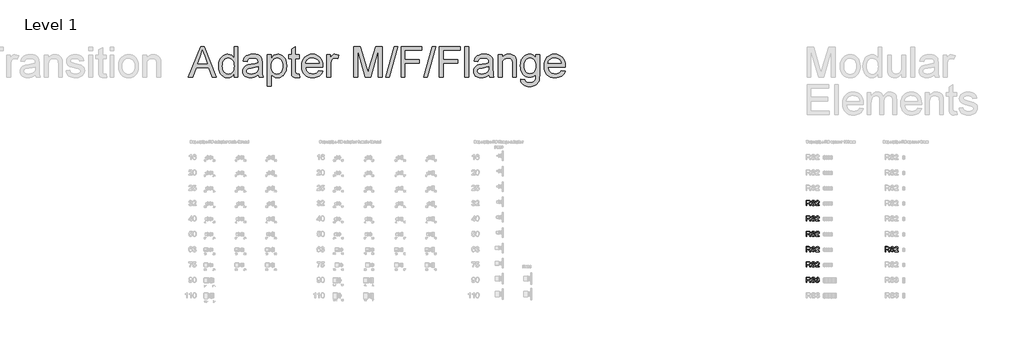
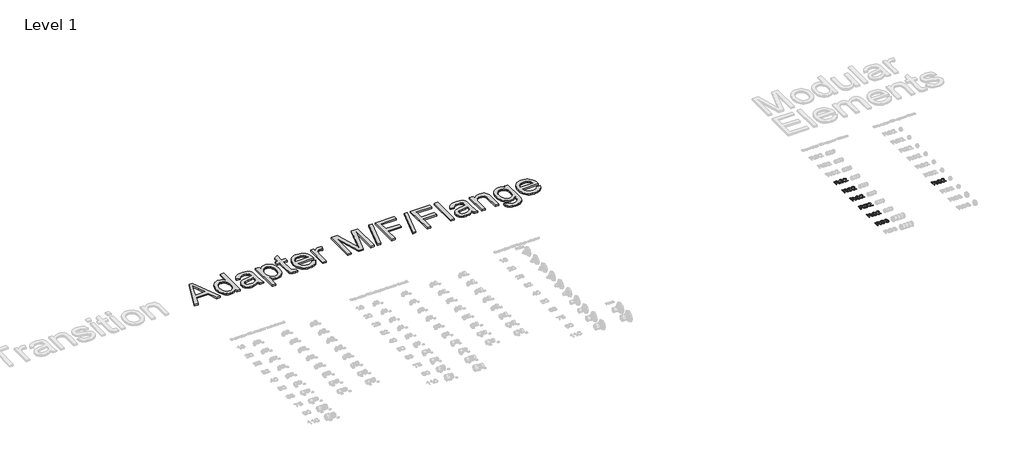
# One storey, part 50 of 58: 8 proxies.
"""IFC4 building model written with IfcOpenShell, lengths in millimetres."""

from ifc_helpers import new_model, si_unit, frame, origin, place, context, project, spatial, polyline, outline, extrude, element, save

model = new_model("IFC4")

# Units and contexts
model_context = context("Model", 3, world=origin())
ifc_project = project(units=[si_unit("LENGTHUNIT", "METRE", prefix="MILLI")], contexts=[model_context])

# Site, building, storey
site = spatial("IfcSite", under=ifc_project)
building = spatial("IfcBuilding", under=site)
storey = spatial("IfcBuildingStorey", under=building, Name="Level 1", Elevation=27.3876384)

# Proxies
placement = place(None, origin())
element("IfcBuildingElementProxy", 1, Name="100mm Arial", ObjectType="100mm Arial", at=placement, inside=storey, context=model_context, shape_type="SweptSolid", body=[
    extrude(outline(polyline([(40829.1903668, 17706.196048), (40829.1903668, 17806.6523581), (40872.4778149, 17806.6523581), (40892.5764346, 17803.9422941), (40903.5638435, 17794.3528367), (40907.6718591, 17779.1593103), (40905.9704049, 17769.2632847), (40900.8660422, 17761.0595162), (40892.2054869, 17755.0446456), (40879.8354548, 17751.7153135), (40886.9723656, 17746.3442364), (40897.1504341, 17733.4193156), (40913.9013276, 17706.196048), (40899.3086751, 17706.196048), (40886.2366016, 17727.0181689), (40876.794297, 17740.801481), (40870.1601584, 17747.3129923), (40864.1882073, 17749.7042253), (40856.9041438, 17750.1456837), (40841.7474056, 17750.1456837), (40841.7474056, 17706.196048), (40829.1903668, 17706.196048)]), holes=[polyline([(40841.7474056, 17762.7027224), (40869.85359, 17762.7027224), (40884.1887251, 17764.4808187), (40892.3311799, 17770.1707269), (40895.1148204, 17778.6933265), (40889.8050569, 17789.7543118), (40873.0173752, 17794.0953193), (40841.7474056, 17794.0953193), (40841.7474056, 17762.7027224)])]), frame((0.0, 0.0, 27.3876384), z_axis=(0.0, 0.0, 1.0), x_axis=(1.0, 0.0, 0.0)), (0.0, 0.0, 1.0), 2.0),
    extrude(outline(polyline([(40924.9377875, 17740.7279046), (40937.4948262, 17740.7279046), (40941.5415282, 17728.1586031), (40951.4252911, 17720.212352), (40966.4839274, 17717.1834569), (40979.6050519, 17719.476588), (40988.0786006, 17725.7796328), (40990.862241, 17734.2041305), (40988.7775763, 17742.040017), (40980.2427141, 17747.742188), (40961.9589789, 17752.5369166), (40942.2772922, 17758.7295969), (40931.5964516, 17768.0737996), (40928.0770471, 17780.5572619), (40932.4303174, 17794.7697697), (40945.1467717, 17804.8006854), (40963.7616007, 17808.221988), (40983.6272284, 17804.6412699), (40996.8709802, 17794.1198448), (41001.8496499, 17778.3990209), (40989.2926111, 17778.3990209), (40986.9872173, 17785.8915509), (40982.1802259, 17791.2994162), (40964.25211, 17795.6649492), (40946.2749432, 17791.3484671), (40940.6340859, 17780.9251439), (40944.6317369, 17772.2186034), (40965.1350268, 17765.20432), (40987.3550993, 17758.9012751), (40999.5074679, 17748.7232066), (41003.4192798, 17734.5229616), (40998.9188567, 17719.5011135), (40985.9694105, 17708.53823), (40966.9744368, 17704.6264181), (40944.5458978, 17708.8447983), (40930.3579155, 17721.5489899), (40924.9377875, 17740.7279046)])), frame((0.0, 0.0, 27.3876384), z_axis=(0.0, 0.0, 1.0), x_axis=(1.0, 0.0, 0.0)), (0.0, 0.0, 1.0), 2.0),
    extrude(outline(polyline([(41081.9007721, 17718.7530867), (41081.9007721, 17706.196048), (41015.9763185, 17706.196048), (41017.3252192, 17714.8535376), (41024.9526392, 17728.1831285), (41040.6734631, 17742.7389928), (41062.3539754, 17763.6592156), (41067.7741034, 17777.8839861), (41062.6605437, 17789.3986925), (41049.3064273, 17794.0953193), (41035.3882251, 17789.5090571), (41030.1029871, 17776.829391), (41017.5459484, 17778.3990209), (41020.5901719, 17790.5452581), (41027.1721939, 17799.4173455), (41036.9486579, 17804.843605), (41049.5762074, 17806.6523581), (41062.2957274, 17804.6412699), (41072.0537973, 17798.6080052), (41078.261806, 17789.5948963), (41080.3311422, 17778.6442756), (41078.0993248, 17766.7371616), (41070.6803712, 17754.4253775), (41052.6909416, 17737.2207629), (41038.245442, 17725.1419707), (41032.5800592, 17718.7530867), (41081.9007721, 17718.7530867)])), frame((0.0, 0.0, 27.3876384), z_axis=(0.0, 0.0, 1.0), x_axis=(1.0, 0.0, 0.0)), (0.0, 0.0, 1.0), 2.0),
])
element("IfcBuildingElementProxy", 2, Name="100mm Arial", ObjectType="100mm Arial", at=placement, inside=storey, context=model_context, shape_type="SweptSolid", body=[
    extrude(outline(polyline([(40829.1903668, 17406.196048), (40829.1903668, 17506.6523581), (40872.4778149, 17506.6523581), (40892.5764346, 17503.9422941), (40903.5638435, 17494.3528367), (40907.6718591, 17479.1593103), (40905.9704049, 17469.2632847), (40900.8660422, 17461.0595162), (40892.2054869, 17455.0446456), (40879.8354548, 17451.7153135), (40886.9723656, 17446.3442364), (40897.1504341, 17433.4193156), (40913.9013276, 17406.196048), (40899.3086751, 17406.196048), (40886.2366016, 17427.0181689), (40876.794297, 17440.801481), (40870.1601584, 17447.3129923), (40864.1882073, 17449.7042253), (40856.9041438, 17450.1456837), (40841.7474056, 17450.1456837), (40841.7474056, 17406.196048), (40829.1903668, 17406.196048)]), holes=[polyline([(40841.7474056, 17462.7027224), (40869.85359, 17462.7027224), (40884.1887251, 17464.4808187), (40892.3311799, 17470.1707269), (40895.1148204, 17478.6933265), (40889.8050569, 17489.7543118), (40873.0173752, 17494.0953193), (40841.7474056, 17494.0953193), (40841.7474056, 17462.7027224)])]), frame((0.0, 0.0, 27.3876384), z_axis=(0.0, 0.0, 1.0), x_axis=(1.0, 0.0, 0.0)), (0.0, 0.0, 1.0), 2.0),
    extrude(outline(polyline([(40924.9377875, 17440.7279046), (40937.4948262, 17440.7279046), (40941.5415282, 17428.1586031), (40951.4252911, 17420.212352), (40966.4839274, 17417.1834569), (40979.6050519, 17419.476588), (40988.0786006, 17425.7796328), (40990.862241, 17434.2041305), (40988.7775763, 17442.040017), (40980.2427141, 17447.742188), (40961.9589789, 17452.5369166), (40942.2772922, 17458.7295969), (40931.5964516, 17468.0737996), (40928.0770471, 17480.5572619), (40932.4303174, 17494.7697697), (40945.1467717, 17504.8006854), (40963.7616007, 17508.221988), (40983.6272284, 17504.6412699), (40996.8709802, 17494.1198448), (41001.8496499, 17478.3990209), (40989.2926111, 17478.3990209), (40986.9872173, 17485.8915509), (40982.1802259, 17491.2994162), (40964.25211, 17495.6649492), (40946.2749432, 17491.3484671), (40940.6340859, 17480.9251439), (40944.6317369, 17472.2186034), (40965.1350268, 17465.20432), (40987.3550993, 17458.9012751), (40999.5074679, 17448.7232066), (41003.4192798, 17434.5229616), (40998.9188567, 17419.5011135), (40985.9694105, 17408.53823), (40966.9744368, 17404.6264181), (40944.5458978, 17408.8447983), (40930.3579155, 17421.5489899), (40924.9377875, 17440.7279046)])), frame((0.0, 0.0, 27.3876384), z_axis=(0.0, 0.0, 1.0), x_axis=(1.0, 0.0, 0.0)), (0.0, 0.0, 1.0), 2.0),
    extrude(outline(polyline([(41081.9007721, 17418.7530867), (41081.9007721, 17406.196048), (41015.9763185, 17406.196048), (41017.3252192, 17414.8535376), (41024.9526392, 17428.1831285), (41040.6734631, 17442.7389928), (41062.3539754, 17463.6592156), (41067.7741034, 17477.8839861), (41062.6605437, 17489.3986925), (41049.3064273, 17494.0953193), (41035.3882251, 17489.5090571), (41030.1029871, 17476.829391), (41017.5459484, 17478.3990209), (41020.5901719, 17490.5452581), (41027.1721939, 17499.4173455), (41036.9486579, 17504.843605), (41049.5762074, 17506.6523581), (41062.2957274, 17504.6412699), (41072.0537973, 17498.6080052), (41078.261806, 17489.5948963), (41080.3311422, 17478.6442756), (41078.0993248, 17466.7371616), (41070.6803712, 17454.4253775), (41052.6909416, 17437.2207629), (41038.245442, 17425.1419707), (41032.5800592, 17418.7530867), (41081.9007721, 17418.7530867)])), frame((0.0, 0.0, 27.3876384), z_axis=(0.0, 0.0, 1.0), x_axis=(1.0, 0.0, 0.0)), (0.0, 0.0, 1.0), 2.0),
])
element("IfcBuildingElementProxy", 3, Name="100mm Arial", ObjectType="100mm Arial", at=placement, inside=storey, context=model_context, shape_type="SweptSolid", body=[
    extrude(outline(polyline([(40829.1903668, 17106.196048), (40829.1903668, 17206.6523581), (40872.4778149, 17206.6523581), (40892.5764346, 17203.9422941), (40903.5638435, 17194.3528367), (40907.6718591, 17179.1593103), (40905.9704049, 17169.2632847), (40900.8660422, 17161.0595162), (40892.2054869, 17155.0446456), (40879.8354548, 17151.7153135), (40886.9723656, 17146.3442364), (40897.1504341, 17133.4193156), (40913.9013276, 17106.196048), (40899.3086751, 17106.196048), (40886.2366016, 17127.0181689), (40876.794297, 17140.801481), (40870.1601584, 17147.3129923), (40864.1882073, 17149.7042253), (40856.9041438, 17150.1456837), (40841.7474056, 17150.1456837), (40841.7474056, 17106.196048), (40829.1903668, 17106.196048)]), holes=[polyline([(40841.7474056, 17162.7027224), (40869.85359, 17162.7027224), (40884.1887251, 17164.4808187), (40892.3311799, 17170.1707269), (40895.1148204, 17178.6933265), (40889.8050569, 17189.7543118), (40873.0173752, 17194.0953193), (40841.7474056, 17194.0953193), (40841.7474056, 17162.7027224)])]), frame((0.0, 0.0, 27.3876384), z_axis=(0.0, 0.0, 1.0), x_axis=(1.0, 0.0, 0.0)), (0.0, 0.0, 1.0), 2.0),
    extrude(outline(polyline([(40924.9377875, 17140.7279046), (40937.4948262, 17140.7279046), (40941.5415282, 17128.1586031), (40951.4252911, 17120.212352), (40966.4839274, 17117.1834569), (40979.6050519, 17119.476588), (40988.0786006, 17125.7796328), (40990.862241, 17134.2041305), (40988.7775763, 17142.040017), (40980.2427141, 17147.742188), (40961.9589789, 17152.5369166), (40942.2772922, 17158.7295969), (40931.5964516, 17168.0737996), (40928.0770471, 17180.5572619), (40932.4303174, 17194.7697697), (40945.1467717, 17204.8006854), (40963.7616007, 17208.221988), (40983.6272284, 17204.6412699), (40996.8709802, 17194.1198448), (41001.8496499, 17178.3990209), (40989.2926111, 17178.3990209), (40986.9872173, 17185.8915509), (40982.1802259, 17191.2994162), (40964.25211, 17195.6649492), (40946.2749432, 17191.3484671), (40940.6340859, 17180.9251439), (40944.6317369, 17172.2186034), (40965.1350268, 17165.20432), (40987.3550993, 17158.9012751), (40999.5074679, 17148.7232066), (41003.4192798, 17134.5229616), (40998.9188567, 17119.5011135), (40985.9694105, 17108.53823), (40966.9744368, 17104.6264181), (40944.5458978, 17108.8447983), (40930.3579155, 17121.5489899), (40924.9377875, 17140.7279046)])), frame((0.0, 0.0, 27.3876384), z_axis=(0.0, 0.0, 1.0), x_axis=(1.0, 0.0, 0.0)), (0.0, 0.0, 1.0), 2.0),
    extrude(outline(polyline([(41081.9007721, 17118.7530867), (41081.9007721, 17106.196048), (41015.9763185, 17106.196048), (41017.3252192, 17114.8535376), (41024.9526392, 17128.1831285), (41040.6734631, 17142.7389928), (41062.3539754, 17163.6592156), (41067.7741034, 17177.8839861), (41062.6605437, 17189.3986925), (41049.3064273, 17194.0953193), (41035.3882251, 17189.5090571), (41030.1029871, 17176.829391), (41017.5459484, 17178.3990209), (41020.5901719, 17190.5452581), (41027.1721939, 17199.4173455), (41036.9486579, 17204.843605), (41049.5762074, 17206.6523581), (41062.2957274, 17204.6412699), (41072.0537973, 17198.6080052), (41078.261806, 17189.5948963), (41080.3311422, 17178.6442756), (41078.0993248, 17166.7371616), (41070.6803712, 17154.4253775), (41052.6909416, 17137.2207629), (41038.245442, 17125.1419707), (41032.5800592, 17118.7530867), (41081.9007721, 17118.7530867)])), frame((0.0, 0.0, 27.3876384), z_axis=(0.0, 0.0, 1.0), x_axis=(1.0, 0.0, 0.0)), (0.0, 0.0, 1.0), 2.0),
])
element("IfcBuildingElementProxy", 4, Name="100mm Arial", ObjectType="100mm Arial", at=placement, inside=storey, context=model_context, shape_type="SweptSolid", body=[
    extrude(outline(polyline([(40829.1903668, 16806.196048), (40829.1903668, 16906.6523581), (40872.4778149, 16906.6523581), (40892.5764346, 16903.9422941), (40903.5638435, 16894.3528367), (40907.6718591, 16879.1593103), (40905.9704049, 16869.2632847), (40900.8660422, 16861.0595162), (40892.2054869, 16855.0446456), (40879.8354548, 16851.7153135), (40886.9723656, 16846.3442364), (40897.1504341, 16833.4193156), (40913.9013276, 16806.196048), (40899.3086751, 16806.196048), (40886.2366016, 16827.0181689), (40876.794297, 16840.801481), (40870.1601584, 16847.3129923), (40864.1882073, 16849.7042253), (40856.9041438, 16850.1456837), (40841.7474056, 16850.1456837), (40841.7474056, 16806.196048), (40829.1903668, 16806.196048)]), holes=[polyline([(40841.7474056, 16862.7027224), (40869.85359, 16862.7027224), (40884.1887251, 16864.4808187), (40892.3311799, 16870.1707269), (40895.1148204, 16878.6933265), (40889.8050569, 16889.7543118), (40873.0173752, 16894.0953193), (40841.7474056, 16894.0953193), (40841.7474056, 16862.7027224)])]), frame((0.0, 0.0, 27.3876384), z_axis=(0.0, 0.0, 1.0), x_axis=(1.0, 0.0, 0.0)), (0.0, 0.0, 1.0), 2.0),
    extrude(outline(polyline([(40924.9377875, 16840.7279046), (40937.4948262, 16840.7279046), (40941.5415282, 16828.1586031), (40951.4252911, 16820.212352), (40966.4839274, 16817.1834569), (40979.6050519, 16819.476588), (40988.0786006, 16825.7796328), (40990.862241, 16834.2041305), (40988.7775763, 16842.040017), (40980.2427141, 16847.742188), (40961.9589789, 16852.5369166), (40942.2772922, 16858.7295969), (40931.5964516, 16868.0737996), (40928.0770471, 16880.5572619), (40932.4303174, 16894.7697697), (40945.1467717, 16904.8006854), (40963.7616007, 16908.221988), (40983.6272284, 16904.6412699), (40996.8709802, 16894.1198448), (41001.8496499, 16878.3990209), (40989.2926111, 16878.3990209), (40986.9872173, 16885.8915509), (40982.1802259, 16891.2994162), (40964.25211, 16895.6649492), (40946.2749432, 16891.3484671), (40940.6340859, 16880.9251439), (40944.6317369, 16872.2186034), (40965.1350268, 16865.20432), (40987.3550993, 16858.9012751), (40999.5074679, 16848.7232066), (41003.4192798, 16834.5229616), (40998.9188567, 16819.5011135), (40985.9694105, 16808.53823), (40966.9744368, 16804.6264181), (40944.5458978, 16808.8447983), (40930.3579155, 16821.5489899), (40924.9377875, 16840.7279046)])), frame((0.0, 0.0, 27.3876384), z_axis=(0.0, 0.0, 1.0), x_axis=(1.0, 0.0, 0.0)), (0.0, 0.0, 1.0), 2.0),
    extrude(outline(polyline([(41081.9007721, 16818.7530867), (41081.9007721, 16806.196048), (41015.9763185, 16806.196048), (41017.3252192, 16814.8535376), (41024.9526392, 16828.1831285), (41040.6734631, 16842.7389928), (41062.3539754, 16863.6592156), (41067.7741034, 16877.8839861), (41062.6605437, 16889.3986925), (41049.3064273, 16894.0953193), (41035.3882251, 16889.5090571), (41030.1029871, 16876.829391), (41017.5459484, 16878.3990209), (41020.5901719, 16890.5452581), (41027.1721939, 16899.4173455), (41036.9486579, 16904.843605), (41049.5762074, 16906.6523581), (41062.2957274, 16904.6412699), (41072.0537973, 16898.6080052), (41078.261806, 16889.5948963), (41080.3311422, 16878.6442756), (41078.0993248, 16866.7371616), (41070.6803712, 16854.4253775), (41052.6909416, 16837.2207629), (41038.245442, 16825.1419707), (41032.5800592, 16818.7530867), (41081.9007721, 16818.7530867)])), frame((0.0, 0.0, 27.3876384), z_axis=(0.0, 0.0, 1.0), x_axis=(1.0, 0.0, 0.0)), (0.0, 0.0, 1.0), 2.0),
])
element("IfcBuildingElementProxy", 5, Name="100mm Arial", ObjectType="100mm Arial", at=placement, inside=storey, context=model_context, shape_type="SweptSolid", body=[
    extrude(outline(polyline([(40829.1903668, 16506.196048), (40829.1903668, 16606.6523581), (40872.4778149, 16606.6523581), (40892.5764346, 16603.9422941), (40903.5638435, 16594.3528367), (40907.6718591, 16579.1593103), (40905.9704049, 16569.2632847), (40900.8660422, 16561.0595162), (40892.2054869, 16555.0446456), (40879.8354548, 16551.7153135), (40886.9723656, 16546.3442364), (40897.1504341, 16533.4193156), (40913.9013276, 16506.196048), (40899.3086751, 16506.196048), (40886.2366016, 16527.0181689), (40876.794297, 16540.801481), (40870.1601584, 16547.3129923), (40864.1882073, 16549.7042253), (40856.9041438, 16550.1456837), (40841.7474056, 16550.1456837), (40841.7474056, 16506.196048), (40829.1903668, 16506.196048)]), holes=[polyline([(40841.7474056, 16562.7027224), (40869.85359, 16562.7027224), (40884.1887251, 16564.4808187), (40892.3311799, 16570.1707269), (40895.1148204, 16578.6933265), (40889.8050569, 16589.7543118), (40873.0173752, 16594.0953193), (40841.7474056, 16594.0953193), (40841.7474056, 16562.7027224)])]), frame((0.0, 0.0, 27.3876384), z_axis=(0.0, 0.0, 1.0), x_axis=(1.0, 0.0, 0.0)), (0.0, 0.0, 1.0), 2.0),
    extrude(outline(polyline([(40924.9377875, 16540.7279046), (40937.4948262, 16540.7279046), (40941.5415282, 16528.1586031), (40951.4252911, 16520.212352), (40966.4839274, 16517.1834569), (40979.6050519, 16519.476588), (40988.0786006, 16525.7796328), (40990.862241, 16534.2041305), (40988.7775763, 16542.040017), (40980.2427141, 16547.742188), (40961.9589789, 16552.5369166), (40942.2772922, 16558.7295969), (40931.5964516, 16568.0737996), (40928.0770471, 16580.5572619), (40932.4303174, 16594.7697697), (40945.1467717, 16604.8006854), (40963.7616007, 16608.221988), (40983.6272284, 16604.6412699), (40996.8709802, 16594.1198448), (41001.8496499, 16578.3990209), (40989.2926111, 16578.3990209), (40986.9872173, 16585.8915509), (40982.1802259, 16591.2994162), (40964.25211, 16595.6649492), (40946.2749432, 16591.3484671), (40940.6340859, 16580.9251439), (40944.6317369, 16572.2186034), (40965.1350268, 16565.20432), (40987.3550993, 16558.9012751), (40999.5074679, 16548.7232066), (41003.4192798, 16534.5229616), (40998.9188567, 16519.5011135), (40985.9694105, 16508.53823), (40966.9744368, 16504.6264181), (40944.5458978, 16508.8447983), (40930.3579155, 16521.5489899), (40924.9377875, 16540.7279046)])), frame((0.0, 0.0, 27.3876384), z_axis=(0.0, 0.0, 1.0), x_axis=(1.0, 0.0, 0.0)), (0.0, 0.0, 1.0), 2.0),
    extrude(outline(polyline([(41081.9007721, 16518.7530867), (41081.9007721, 16506.196048), (41015.9763185, 16506.196048), (41017.3252192, 16514.8535376), (41024.9526392, 16528.1831285), (41040.6734631, 16542.7389928), (41062.3539754, 16563.6592156), (41067.7741034, 16577.8839861), (41062.6605437, 16589.3986925), (41049.3064273, 16594.0953193), (41035.3882251, 16589.5090571), (41030.1029871, 16576.829391), (41017.5459484, 16578.3990209), (41020.5901719, 16590.5452581), (41027.1721939, 16599.4173455), (41036.9486579, 16604.843605), (41049.5762074, 16606.6523581), (41062.2957274, 16604.6412699), (41072.0537973, 16598.6080052), (41078.261806, 16589.5948963), (41080.3311422, 16578.6442756), (41078.0993248, 16566.7371616), (41070.6803712, 16554.4253775), (41052.6909416, 16537.2207629), (41038.245442, 16525.1419707), (41032.5800592, 16518.7530867), (41081.9007721, 16518.7530867)])), frame((0.0, 0.0, 27.3876384), z_axis=(0.0, 0.0, 1.0), x_axis=(1.0, 0.0, 0.0)), (0.0, 0.0, 1.0), 2.0),
])
element("IfcBuildingElementProxy", 6, Name="100mm Arial", ObjectType="100mm Arial", at=placement, inside=storey, context=model_context, shape_type="SweptSolid", body=[
    extrude(outline(polyline([(40829.1903668, 16206.196048), (40829.1903668, 16306.6523581), (40872.4778149, 16306.6523581), (40892.5764346, 16303.9422941), (40903.5638435, 16294.3528367), (40907.6718591, 16279.1593103), (40905.9704049, 16269.2632847), (40900.8660422, 16261.0595162), (40892.2054869, 16255.0446456), (40879.8354548, 16251.7153135), (40886.9723656, 16246.3442364), (40897.1504341, 16233.4193156), (40913.9013276, 16206.196048), (40899.3086751, 16206.196048), (40886.2366016, 16227.0181689), (40876.794297, 16240.801481), (40870.1601584, 16247.3129923), (40864.1882073, 16249.7042253), (40856.9041438, 16250.1456837), (40841.7474056, 16250.1456837), (40841.7474056, 16206.196048), (40829.1903668, 16206.196048)]), holes=[polyline([(40841.7474056, 16262.7027224), (40869.85359, 16262.7027224), (40884.1887251, 16264.4808187), (40892.3311799, 16270.1707269), (40895.1148204, 16278.6933265), (40889.8050569, 16289.7543118), (40873.0173752, 16294.0953193), (40841.7474056, 16294.0953193), (40841.7474056, 16262.7027224)])]), frame((0.0, 0.0, 27.3876384), z_axis=(0.0, 0.0, 1.0), x_axis=(1.0, 0.0, 0.0)), (0.0, 0.0, 1.0), 2.0),
    extrude(outline(polyline([(40924.9377875, 16240.7279046), (40937.4948262, 16240.7279046), (40941.5415282, 16228.1586031), (40951.4252911, 16220.212352), (40966.4839274, 16217.1834569), (40979.6050519, 16219.476588), (40988.0786006, 16225.7796328), (40990.862241, 16234.2041305), (40988.7775763, 16242.040017), (40980.2427141, 16247.742188), (40961.9589789, 16252.5369166), (40942.2772922, 16258.7295969), (40931.5964516, 16268.0737996), (40928.0770471, 16280.5572619), (40932.4303174, 16294.7697697), (40945.1467717, 16304.8006854), (40963.7616007, 16308.221988), (40983.6272284, 16304.6412699), (40996.8709802, 16294.1198448), (41001.8496499, 16278.3990209), (40989.2926111, 16278.3990209), (40986.9872173, 16285.8915509), (40982.1802259, 16291.2994162), (40964.25211, 16295.6649492), (40946.2749432, 16291.3484671), (40940.6340859, 16280.9251439), (40944.6317369, 16272.2186034), (40965.1350268, 16265.20432), (40987.3550993, 16258.9012751), (40999.5074679, 16248.7232066), (41003.4192798, 16234.5229616), (40998.9188567, 16219.5011135), (40985.9694105, 16208.53823), (40966.9744368, 16204.6264181), (40944.5458978, 16208.8447983), (40930.3579155, 16221.5489899), (40924.9377875, 16240.7279046)])), frame((0.0, 0.0, 27.3876384), z_axis=(0.0, 0.0, 1.0), x_axis=(1.0, 0.0, 0.0)), (0.0, 0.0, 1.0), 2.0),
    extrude(outline(polyline([(41017.5459484, 16232.8797554), (41030.1029871, 16234.4493852), (41037.0314314, 16221.2301588), (41049.9931403, 16217.1834569), (41058.601579, 16218.5752771), (41065.2479804, 16222.7507378), (41070.9133631, 16236.5340498), (41065.2970313, 16249.5202843), (41051.0232099, 16254.6583695), (41042.2185675, 16253.2849434), (41043.6165191, 16265.8419821), (41045.6276073, 16265.6948293), (41059.8769033, 16269.3000729), (41064.622581, 16273.8740723), (41066.2044736, 16280.3855837), (41061.6182114, 16290.2080329), (41049.7969366, 16294.0953193), (41037.828509, 16290.1712447), (41031.672617, 16278.3990209), (41019.1155782, 16279.9686507), (41022.8127923, 16291.2442339), (41029.3917486, 16299.6626002), (41038.3925948, 16304.9049186), (41049.3554782, 16306.6523581), (41064.4999537, 16303.2065301), (41075.0949552, 16293.788751), (41078.7615124, 16281.1213477), (41075.2788961, 16269.5453275), (41064.9782003, 16261.2311944), (41078.6634105, 16252.6472812), (41083.4704019, 16236.3133206), (41081.0669062, 16224.0751129), (41073.8564191, 16213.8479935), (41062.9732434, 16206.931812), (41049.551682, 16204.6264181), (41037.4115761, 16206.5945868), (41027.5278132, 16212.4990928), (41020.6545512, 16221.5305958), (41017.5459484, 16232.8797554)])), frame((0.0, 0.0, 27.3876384), z_axis=(0.0, 0.0, 1.0), x_axis=(1.0, 0.0, 0.0)), (0.0, 0.0, 1.0), 2.0),
])
element("IfcBuildingElementProxy", 7, Name="100mm Arial", ObjectType="100mm Arial", at=placement, inside=storey, context=model_context, shape_type="SweptSolid", body=[
    extrude(outline(polyline([(42369.1903668, 16806.196048), (42369.1903668, 16906.6523581), (42412.4778149, 16906.6523581), (42432.5764346, 16903.9422941), (42443.5638435, 16894.3528367), (42447.6718591, 16879.1593103), (42445.9704049, 16869.2632847), (42440.8660422, 16861.0595162), (42432.2054869, 16855.0446456), (42419.8354548, 16851.7153135), (42426.9723656, 16846.3442364), (42437.1504341, 16833.4193156), (42453.9013276, 16806.196048), (42439.3086751, 16806.196048), (42426.2366016, 16827.0181689), (42416.794297, 16840.801481), (42410.1601584, 16847.3129923), (42404.1882073, 16849.7042253), (42396.9041438, 16850.1456837), (42381.7474056, 16850.1456837), (42381.7474056, 16806.196048), (42369.1903668, 16806.196048)]), holes=[polyline([(42381.7474056, 16862.7027224), (42409.85359, 16862.7027224), (42424.1887251, 16864.4808187), (42432.3311799, 16870.1707269), (42435.1148204, 16878.6933265), (42429.8050569, 16889.7543118), (42413.0173752, 16894.0953193), (42381.7474056, 16894.0953193), (42381.7474056, 16862.7027224)])]), frame((0.0, 0.0, 27.3876384), z_axis=(0.0, 0.0, 1.0), x_axis=(1.0, 0.0, 0.0)), (0.0, 0.0, 1.0), 2.0),
    extrude(outline(polyline([(42464.9377875, 16840.7279046), (42477.4948262, 16840.7279046), (42481.5415282, 16828.1586031), (42491.4252911, 16820.212352), (42506.4839274, 16817.1834569), (42519.6050519, 16819.476588), (42528.0786006, 16825.7796328), (42530.862241, 16834.2041305), (42528.7775763, 16842.040017), (42520.2427141, 16847.742188), (42501.9589789, 16852.5369166), (42482.2772922, 16858.7295969), (42471.5964516, 16868.0737996), (42468.0770471, 16880.5572619), (42472.4303174, 16894.7697697), (42485.1467717, 16904.8006854), (42503.7616007, 16908.221988), (42523.6272284, 16904.6412699), (42536.8709802, 16894.1198448), (42541.8496499, 16878.3990209), (42529.2926111, 16878.3990209), (42526.9872173, 16885.8915509), (42522.1802259, 16891.2994162), (42504.25211, 16895.6649492), (42486.2749432, 16891.3484671), (42480.6340859, 16880.9251439), (42484.6317369, 16872.2186034), (42505.1350268, 16865.20432), (42527.3550993, 16858.9012751), (42539.5074679, 16848.7232066), (42543.4192798, 16834.5229616), (42538.9188567, 16819.5011135), (42525.9694105, 16808.53823), (42506.9744368, 16804.6264181), (42484.5458978, 16808.8447983), (42470.3579155, 16821.5489899), (42464.9377875, 16840.7279046)])), frame((0.0, 0.0, 27.3876384), z_axis=(0.0, 0.0, 1.0), x_axis=(1.0, 0.0, 0.0)), (0.0, 0.0, 1.0), 2.0),
    extrude(outline(polyline([(42621.9007721, 16818.7530867), (42621.9007721, 16806.196048), (42555.9763185, 16806.196048), (42557.3252192, 16814.8535376), (42564.9526392, 16828.1831285), (42580.6734631, 16842.7389928), (42602.3539754, 16863.6592156), (42607.7741034, 16877.8839861), (42602.6605437, 16889.3986925), (42589.3064273, 16894.0953193), (42575.3882251, 16889.5090571), (42570.1029871, 16876.829391), (42557.5459484, 16878.3990209), (42560.5901719, 16890.5452581), (42567.1721939, 16899.4173455), (42576.9486579, 16904.843605), (42589.5762074, 16906.6523581), (42602.2957274, 16904.6412699), (42612.0537973, 16898.6080052), (42618.261806, 16889.5948963), (42620.3311422, 16878.6442756), (42618.0993248, 16866.7371616), (42610.6803712, 16854.4253775), (42592.6909416, 16837.2207629), (42578.245442, 16825.1419707), (42572.5800592, 16818.7530867), (42621.9007721, 16818.7530867)])), frame((0.0, 0.0, 27.3876384), z_axis=(0.0, 0.0, 1.0), x_axis=(1.0, 0.0, 0.0)), (0.0, 0.0, 1.0), 2.0),
])
element("IfcBuildingElementProxy", 8, Name="600mm Arial", ObjectType="600mm Arial", at=placement, inside=storey, context=model_context, shape_type="SweptSolid", body=[
    extrude(outline(polyline([(28776.5509061, 20213.7679008), (29017.145731, 20816.5057617), (29081.3043509, 20816.5057617), (29321.8991758, 20213.7679008), (29242.289512, 20213.7679008), (29173.2748497, 20402.1234823), (28925.0280794, 20402.1234823), (28856.1605699, 20213.7679008), (28776.5509061, 20213.7679008)]), holes=[polyline([(28952.6928054, 20477.4657149), (29145.7572765, 20477.4657149), (29091.457894, 20625.6485826), (29049.2250409, 20741.1635291), (29011.7010774, 20638.5980288), (28952.6928054, 20477.4657149)])]), frame((0.0, 0.0, 27.3876384), z_axis=(0.0, 0.0, 1.0), x_axis=(1.0, 0.0, 0.0)), (0.0, 0.0, 1.0), 30.0),
    extrude(outline(polyline([(29666.0895704, 20213.7679008), (29666.0895704, 20284.8427023), (29643.5476012, 20249.6271983), (29616.2415601, 20224.4732669), (29584.1714472, 20209.380908), (29547.3372624, 20204.3501217), (29522.4684395, 20206.1711376), (29498.6296862, 20211.6341852), (29475.8210025, 20220.7392646), (29454.0423884, 20233.4863757), (29433.9744256, 20249.4938411), (29416.2976957, 20268.379983), (29401.0121988, 20290.1448015), (29388.1179349, 20314.7882967), (29377.8816184, 20341.8414189), (29370.5699637, 20370.8351186), (29364.72064, 20434.6442507), (29370.1101112, 20497.6624365), (29386.2785249, 20554.5737811), (29398.4002367, 20579.9300477), (29413.207487, 20602.1409231), (29430.7002758, 20621.2064075), (29450.8786033, 20637.1265009), (29473.0296979, 20649.6804739), (29496.4407884, 20658.6475976), (29521.1118747, 20664.0278718), (29547.0429568, 20665.8212965), (29583.9047327, 20660.6893426), (29616.4990775, 20645.2934811), (29644.1270153, 20621.6938512), (29666.0895704, 20591.9505918), (29666.0895704, 20816.5057617), (29741.4318031, 20816.5057617), (29741.4318031, 20213.7679008), (29666.0895704, 20213.7679008)]), holes=[polyline([(29440.0628726, 20434.9385563), (29442.1873911, 20398.4032757), (29448.5609467, 20366.7884167), (29459.1835393, 20340.0939794), (29474.055169, 20318.3199638), (29491.8146723, 20301.4203847), (29511.1008859, 20289.3492567), (29531.9138098, 20282.1065799), (29554.2534439, 20279.6923543), (29576.6988441, 20281.9962153), (29597.3876078, 20288.9077983), (29616.319735, 20300.4271033), (29633.4952257, 20316.5541303), (29647.7552515, 20337.4176379), (29657.9409843, 20363.1463849), (29664.0524239, 20393.7403714), (29666.0895704, 20429.1995972), (29664.0156357, 20468.075527), (29657.7938315, 20501.4148328), (29647.4241577, 20529.2175146), (29632.9066145, 20551.4835724), (29615.3540448, 20568.5440999), (29595.8792917, 20580.730191), (29574.4823551, 20588.0418456), (29551.1632352, 20590.4790639), (29528.3821426, 20588.1384147), (29507.5692187, 20581.1164671), (29488.7244635, 20569.4132211), (29471.847877, 20553.0286768), (29457.9419376, 20531.6041491), (29448.0091237, 20504.7809531), (29442.0494354, 20472.5590888), (29440.0628726, 20434.9385563)])]), frame((0.0, 0.0, 27.3876384), z_axis=(0.0, 0.0, 1.0), x_axis=(1.0, 0.0, 0.0)), (0.0, 0.0, 1.0), 30.0),
    extrude(outline(polyline([(30136.9785243, 20270.2745753), (30100.981271, 20239.4092759), (30063.91716, 20219.2125543), (30024.9400626, 20208.0657299), (29983.2038503, 20204.3501217), (29949.6576109, 20206.5850048), (29920.2408468, 20213.2896542), (29894.9535582, 20224.4640698), (29873.7957449, 20240.1082517), (29857.0893038, 20259.2289184), (29845.1561316, 20280.8327885), (29837.9962283, 20304.9198622), (29835.6095938, 20331.4901393), (29839.2148374, 20362.7233207), (29850.030568, 20391.0870225), (29866.7140165, 20415.3672342), (29887.9224135, 20434.3499451), (29912.8464187, 20448.6973429), (29940.6766916, 20459.0716152), (30005.8653812, 20470.4023806), (30082.899871, 20482.3217573), (30136.5370659, 20496.3012731), (30136.9785243, 20513.0766921), (30131.7913881, 20546.7011064), (30125.307468, 20559.153912), (30116.2299797, 20568.7004498), (30100.5398126, 20578.2285934), (30081.428343, 20585.0344103), (30032.941496, 20590.4790639), (29988.0598926, 20586.8554262), (29956.7163466, 20575.9845133), (29935.3424027, 20555.8797622), (29920.3696055, 20524.5546103), (29845.0273729, 20533.9723894), (29858.1055778, 20575.1751729), (29877.6217177, 20607.5487884), (29905.3968083, 20632.3072467), (29943.2518656, 20650.6645583), (29989.5498147, 20662.0321119), (30042.6535807, 20665.8212965), (30093.5868429, 20662.4735703), (30133.9618919, 20652.4303919), (30164.404127, 20637.328836), (30185.5389476, 20618.8059775), (30199.5552516, 20595.9053233), (30208.6419369, 20567.6703802), (30212.3207569, 20501.7459266), (30212.3207569, 20408.0095943), (30216.1467296, 20277.1171804), (30221.8121124, 20244.7619589), (30231.156315, 20213.7679008), (30155.8140824, 20213.7679008), (30143.747553, 20239.9610989), (30136.9785243, 20270.2745753)]), holes=[polyline([(30136.9785243, 20420.9590405), (30086.3579617, 20408.4142645), (30015.4303131, 20397.8560512), (29950.6095055, 20385.642369), (29933.742116, 20377.2914477), (29921.2525223, 20365.7767412), (29913.5270004, 20351.9811664), (29910.9518264, 20336.78764), (29916.5620269, 20314.3836265), (29933.3926281, 20296.0263149), (29961.0757483, 20283.7758445), (29999.2435053, 20279.6923543), (30039.7105247, 20284.1989088), (30075.4686547, 20297.7185721), (30104.4577559, 20317.6393821), (30124.6176892, 20341.3493767), (30133.5572217, 20365.7767412), (30136.5370659, 20399.6218848), (30136.9785243, 20420.9590405)])]), frame((0.0, 0.0, 27.3876384), z_axis=(0.0, 0.0, 1.0), x_axis=(1.0, 0.0, 0.0)), (0.0, 0.0, 1.0), 30.0),
    extrude(outline(polyline([(30315.9163267, 20044.2478774), (30315.9163267, 20656.4035174), (30391.2585593, 20656.4035174), (30391.2585593, 20582.5328128), (30415.8330766, 20618.9715244), (30443.3506499, 20644.9991756), (30475.4299598, 20660.6157662), (30513.6896873, 20665.8212965), (30539.9656588, 20664.0002806), (30564.6413437, 20658.537233), (30587.7167418, 20649.4321536), (30609.1918533, 20636.6850425), (30628.5976285, 20620.6269934), (30645.465018, 20601.5891001), (30659.7940217, 20579.5713627), (30671.5846397, 20554.5737811), (30687.3667773, 20499.0603881), (30692.6274898, 20438.4702235), (30686.6861956, 20374.035692), (30679.2595778, 20344.3706076), (30668.8623129, 20316.4069775), (30655.6369552, 20290.875967), (30639.7260589, 20268.5087417), (30621.129624, 20249.3053015), (30599.8476506, 20233.2656465), (30576.9240038, 20220.6151044), (30553.4025487, 20211.5790029), (30529.2832854, 20206.157342), (30504.5662139, 20204.3501217), (30469.930124, 20209.18777), (30439.0096423, 20223.7007147), (30412.5405328, 20245.6080875), (30391.2585593, 20272.62902), (30391.2585593, 20044.2478774), (30315.9163267, 20044.2478774)]), holes=[polyline([(30391.2585593, 20431.5540419), (30393.2957059, 20395.244089), (30399.4071455, 20364.0109076), (30409.5928783, 20337.8544978), (30423.8529041, 20316.7748595), (30441.0191977, 20300.5512635), (30459.9237337, 20288.9629806), (30480.5665122, 20282.0100109), (30502.9475331, 20279.6923543), (30525.6504507, 20282.0927844), (30546.6703082, 20289.2940744), (30566.0071056, 20301.2962245), (30583.6608428, 20318.0992346), (30598.3715241, 20339.9422281), (30608.8791536, 20367.0643282), (30615.1837313, 20399.4655349), (30617.2852572, 20437.1458483), (30615.234315, 20473.1431015), (30609.0814887, 20504.3211006), (30598.8267781, 20530.6798456), (30584.4701832, 20552.2193364), (30567.2625029, 20568.9579671), (30548.4545359, 20580.914132), (30528.0462822, 20588.0878309), (30506.0377418, 20590.4790639), (30484.0981793, 20587.9360796), (30463.4554009, 20580.3071267), (30444.1094065, 20567.5922052), (30426.0601961, 20549.7913152), (30410.83448, 20527.1435799), (30399.9589685, 20499.8881226), (30393.4336616, 20468.0249432), (30391.2585593, 20431.5540419)])]), frame((0.0, 0.0, 27.3876384), z_axis=(0.0, 0.0, 1.0), x_axis=(1.0, 0.0, 0.0)), (0.0, 0.0, 1.0), 30.0),
    extrude(outline(polyline([(30937.4897458, 20276.6021456), (30946.9075249, 20211.5606088), (30890.5480032, 20204.3501217), (30854.3852031, 20207.4771187), (30827.4194528, 20216.8581096), (30808.3631655, 20231.315872), (30795.928754, 20249.6731835), (30789.0861489, 20281.2006705), (30786.8052805, 20335.1689592), (30786.8052805, 20581.0612848), (30730.2986061, 20581.0612848), (30730.2986061, 20656.4035174), (30786.8052805, 20656.4035174), (30786.8052805, 20763.9722128), (30862.1475132, 20808.265205), (30862.1475132, 20656.4035174), (30937.4897458, 20656.4035174), (30937.4897458, 20581.0612848), (30862.1475132, 20581.0612848), (30862.1475132, 20337.3762512), (30866.1206387, 20298.5279125), (30878.9965085, 20284.7691259), (30889.8674215, 20280.9615472), (30904.6746718, 20279.6923543), (30937.4897458, 20276.6021456)])), frame((0.0, 0.0, 27.3876384), z_axis=(0.0, 0.0, 1.0), x_axis=(1.0, 0.0, 0.0)), (0.0, 0.0, 1.0), 30.0),
    extrude(outline(polyline([(31322.7357711, 20345.6168079), (31396.6064758, 20336.1990288), (31385.2803088, 20306.6121193), (31369.9902134, 20280.5384829), (31350.7361895, 20257.9781196), (31327.5182371, 20238.9310293), (31300.5754794, 20223.8018822), (31270.1470399, 20212.9953486), (31236.2329185, 20206.5114285), (31198.8331151, 20204.3501217), (31152.0845106, 20208.0795255), (31110.4310717, 20219.2677366), (31073.8727984, 20237.9147553), (31042.4096908, 20264.0205813), (31017.1086066, 20296.8586479), (30999.0364036, 20335.7023881), (30988.1930818, 20380.5518018), (30984.5786412, 20431.4068892), (30988.22987, 20483.9864233), (30999.1835564, 20530.3303577), (31017.4397004, 20570.4386922), (31042.998302, 20604.3114269), (31074.3786362, 20631.2219948), (31110.0999779, 20650.4438291), (31150.1623272, 20661.9769296), (31194.565684, 20665.8212965), (31237.5388996, 20661.9861267), (31276.4010338, 20650.4806173), (31311.1520868, 20631.3047683), (31341.7920585, 20604.4585797), (31366.8034356, 20570.6594214), (31384.668705, 20530.6246633), (31395.3878666, 20484.3543053), (31398.9609205, 20431.8483475), (31398.5194621, 20411.5412614), (31059.9208738, 20411.5412614), (31064.2848739, 20381.4761054), (31072.9622905, 20355.1449516), (31085.9531235, 20332.5478), (31103.2573728, 20313.6846507), (31123.9185454, 20298.813021), (31146.9801479, 20288.1904284), (31172.4421805, 20281.8168729), (31200.3046431, 20279.6923543), (31240.4037806, 20283.6286917), (31274.1753478, 20295.4377037), (31301.6193446, 20315.8551545), (31322.7357711, 20345.6168079)]), holes=[polyline([(31059.9208738, 20486.883494), (31323.6186879, 20486.883494), (31313.4283566, 20526.6883259), (31304.6635681, 20542.3417048), (31293.4523643, 20555.1623923), (31272.9061549, 20570.6134361), (31249.5272541, 20581.649896), (31223.3156619, 20588.2717719), (31194.2713784, 20590.4790639), (31167.7792762, 20588.7178288), (31143.485269, 20583.4341237), (31121.3893566, 20574.6279484), (31101.4915392, 20562.299303), (31084.7942952, 20547.0184047), (31072.3001029, 20529.3554704), (31064.0089624, 20509.3105002), (31059.9208738, 20486.883494)])]), frame((0.0, 0.0, 27.3876384), z_axis=(0.0, 0.0, 1.0), x_axis=(1.0, 0.0, 0.0)), (0.0, 0.0, 1.0), 30.0),
    extrude(outline(polyline([(31474.3031531, 20213.7679008), (31474.3031531, 20656.4035174), (31540.2276067, 20656.4035174), (31540.2276067, 20590.9205223), (31564.5813948, 20628.8859442), (31587.0221965, 20651.2531695), (31609.5365746, 20662.1792647), (31634.1110918, 20665.8212965), (31671.6350553, 20660.008761), (31709.74763, 20642.5711544), (31684.5845016, 20575.0280201), (31658.0969979, 20586.6163029), (31631.6094943, 20590.4790639), (31609.1135103, 20586.7634557), (31589.0087592, 20575.6166313), (31572.7667691, 20557.8847191), (31561.859068, 20534.4138478), (31552.6988063, 20492.3281476), (31549.6453857, 20446.4164746), (31549.6453857, 20213.7679008), (31474.3031531, 20213.7679008)])), frame((0.0, 0.0, 27.3876384), z_axis=(0.0, 0.0, 1.0), x_axis=(1.0, 0.0, 0.0)), (0.0, 0.0, 1.0), 30.0),
    extrude(outline(polyline([(32001.6987814, 20213.7679008), (32001.6987814, 20816.5057617), (32131.3403965, 20816.5057617), (32254.6544413, 20391.6756337), (32279.5232642, 20302.9424964), (32306.4522262, 20399.0332736), (32427.7061318, 20816.5057617), (32557.3477469, 20816.5057617), (32557.3477469, 20213.7679008), (32482.0055143, 20213.7679008), (32482.0055143, 20741.1635291), (32330.5852851, 20213.7679008), (32228.4612432, 20213.7679008), (32077.041014, 20741.1635291), (32077.041014, 20213.7679008), (32001.6987814, 20213.7679008)])), frame((0.0, 0.0, 27.3876384), z_axis=(0.0, 0.0, 1.0), x_axis=(1.0, 0.0, 0.0)), (0.0, 0.0, 1.0), 30.0),
    extrude(outline(polyline([(32623.2722005, 20213.7679008), (32792.7922238, 20816.5057617), (32860.7768166, 20816.5057617), (32691.2567932, 20213.7679008), (32623.2722005, 20213.7679008)])), frame((0.0, 0.0, 27.3876384), z_axis=(0.0, 0.0, 1.0), x_axis=(1.0, 0.0, 0.0)), (0.0, 0.0, 1.0), 30.0),
    extrude(outline(polyline([(32924.6411309, 20213.7679008), (32924.6411309, 20816.5057617), (33329.6056312, 20816.5057617), (33329.6056312, 20741.1635291), (32999.9833635, 20741.1635291), (32999.9833635, 20562.2257266), (33282.5167358, 20562.2257266), (33282.5167358, 20486.883494), (32999.9833635, 20486.883494), (32999.9833635, 20213.7679008), (32924.6411309, 20213.7679008)])), frame((0.0, 0.0, 27.3876384), z_axis=(0.0, 0.0, 1.0), x_axis=(1.0, 0.0, 0.0)), (0.0, 0.0, 1.0), 30.0),
    extrude(outline(polyline([(33367.2767475, 20213.7679008), (33536.7967709, 20816.5057617), (33604.7813636, 20816.5057617), (33435.2613402, 20213.7679008), (33367.2767475, 20213.7679008)])), frame((0.0, 0.0, 27.3876384), z_axis=(0.0, 0.0, 1.0), x_axis=(1.0, 0.0, 0.0)), (0.0, 0.0, 1.0), 30.0),
    extrude(outline(polyline([(33668.645678, 20213.7679008), (33668.645678, 20816.5057617), (34073.6101783, 20816.5057617), (34073.6101783, 20741.1635291), (33743.9879106, 20741.1635291), (33743.9879106, 20562.2257266), (34026.5212829, 20562.2257266), (34026.5212829, 20486.883494), (33743.9879106, 20486.883494), (33743.9879106, 20213.7679008), (33668.645678, 20213.7679008)])), frame((0.0, 0.0, 27.3876384), z_axis=(0.0, 0.0, 1.0), x_axis=(1.0, 0.0, 0.0)), (0.0, 0.0, 1.0), 30.0),
    extrude(outline(polyline([(34167.787969, 20213.7679008), (34167.787969, 20816.5057617), (34243.1302016, 20816.5057617), (34243.1302016, 20213.7679008), (34167.787969, 20213.7679008)])), frame((0.0, 0.0, 27.3876384), z_axis=(0.0, 0.0, 1.0), x_axis=(1.0, 0.0, 0.0)), (0.0, 0.0, 1.0), 30.0),
    extrude(outline(polyline([(34638.6769228, 20270.2745753), (34602.6796696, 20239.4092759), (34565.6155586, 20219.2125543), (34526.6384612, 20208.0657299), (34484.9022489, 20204.3501217), (34451.3560094, 20206.5850048), (34421.9392454, 20213.2896542), (34396.6519567, 20224.4640698), (34375.4941435, 20240.1082517), (34358.7877024, 20259.2289184), (34346.8545302, 20280.8327885), (34339.6946268, 20304.9198622), (34337.3079924, 20331.4901393), (34340.913236, 20362.7233207), (34351.7289666, 20391.0870225), (34368.4124151, 20415.3672342), (34389.6208121, 20434.3499451), (34414.5448173, 20448.6973429), (34442.3750902, 20459.0716152), (34507.5637798, 20470.4023806), (34584.5982696, 20482.3217573), (34638.2354645, 20496.3012731), (34638.6769228, 20513.0766921), (34633.4897867, 20546.7011064), (34627.0058666, 20559.153912), (34617.9283783, 20568.7004498), (34602.2382112, 20578.2285934), (34583.1267416, 20585.0344103), (34534.6398946, 20590.4790639), (34489.7582912, 20586.8554262), (34458.4147452, 20575.9845133), (34437.0408013, 20555.8797622), (34422.0680041, 20524.5546103), (34346.7257715, 20533.9723894), (34359.8039764, 20575.1751729), (34379.3201162, 20607.5487884), (34407.0952069, 20632.3072467), (34444.9502642, 20650.6645583), (34491.2482133, 20662.0321119), (34544.3519793, 20665.8212965), (34595.2852415, 20662.4735703), (34635.6602905, 20652.4303919), (34666.1025256, 20637.328836), (34687.2373462, 20618.8059775), (34701.2536502, 20595.9053233), (34710.3403355, 20567.6703802), (34714.0191555, 20501.7459266), (34714.0191555, 20408.0095943), (34717.8451282, 20277.1171804), (34723.5105109, 20244.7619589), (34732.8547136, 20213.7679008), (34657.512481, 20213.7679008), (34645.4459516, 20239.9610989), (34638.6769228, 20270.2745753)]), holes=[polyline([(34638.6769228, 20420.9590405), (34588.0563603, 20408.4142645), (34517.1287116, 20397.8560512), (34452.3079041, 20385.642369), (34435.4405146, 20377.2914477), (34422.9509209, 20365.7767412), (34415.225399, 20351.9811664), (34412.650225, 20336.78764), (34418.2604254, 20314.3836265), (34435.0910267, 20296.0263149), (34462.7741469, 20283.7758445), (34500.9419039, 20279.6923543), (34541.4089233, 20284.1989088), (34577.1670533, 20297.7185721), (34606.1561545, 20317.6393821), (34626.3160878, 20341.3493767), (34635.2556203, 20365.7767412), (34638.2354645, 20399.6218848), (34638.6769228, 20420.9590405)])]), frame((0.0, 0.0, 27.3876384), z_axis=(0.0, 0.0, 1.0), x_axis=(1.0, 0.0, 0.0)), (0.0, 0.0, 1.0), 30.0),
    extrude(outline(polyline([(34817.6147253, 20213.7679008), (34817.6147253, 20656.4035174), (34892.9569579, 20656.4035174), (34892.9569579, 20594.5993422), (34919.1317619, 20625.7589472), (34950.5672784, 20648.0158079), (34987.2635074, 20661.3699243), (35029.2204489, 20665.8212965), (35066.3581363, 20662.234447), (35100.3688268, 20651.4738987), (35128.7325286, 20634.8824207), (35148.9292502, 20613.8027824), (35162.6328545, 20588.290166), (35171.5172047, 20558.3997539), (35175.4903302, 20485.5591188), (35175.4903302, 20213.7679008), (35100.1480976, 20213.7679008), (35100.1480976, 20475.4055758), (35097.9775938, 20514.3642791), (35091.4660825, 20542.0657933), (35079.4547354, 20561.9130269), (35060.7847241, 20577.3088884), (35036.8540003, 20587.18652), (35009.0605156, 20590.4790639), (34986.182854, 20588.6304568), (34964.9330703, 20583.0846358), (34945.3111644, 20573.8416006), (34927.3171363, 20560.9013515), (34912.2845582, 20542.7923602), (34901.5470025, 20518.043099), (34895.1044691, 20486.6535678), (34892.9569579, 20448.6237665), (34892.9569579, 20213.7679008), (34817.6147253, 20213.7679008)])), frame((0.0, 0.0, 27.3876384), z_axis=(0.0, 0.0, 1.0), x_axis=(1.0, 0.0, 0.0)), (0.0, 0.0, 1.0), 30.0),
    extrude(outline(polyline([(35260.2503419, 20176.0967845), (35335.5925745, 20166.6790054), (35343.9067076, 20143.1345577), (35360.019939, 20126.9477499), (35391.6945788, 20114.3661857), (35433.1548796, 20110.172331), (35477.3742955, 20114.9180087), (35495.2349663, 20120.8501059), (35510.2629458, 20129.1550419), (35533.0716295, 20151.9637256), (35547.0511453, 20182.4243548), (35551.1346355, 20214.8347586), (35552.2014933, 20270.2745753), (35527.1303353, 20245.5529052), (35499.1529096, 20227.8945694), (35468.2692161, 20217.299568), (35434.4792548, 20213.7679008), (35393.1707053, 20217.8789821), (35356.8009715, 20230.212226), (35325.3700536, 20250.7676325), (35298.8779514, 20279.5452015), (35277.8580939, 20314.0709268), (35262.84391, 20351.8708018), (35253.8353996, 20392.9448266), (35250.8325628, 20437.2930011), (35256.2220341, 20498.122289), (35272.3904477, 20554.0587463), (35284.3742037, 20579.2816556), (35298.7675868, 20601.4603414), (35315.5705969, 20620.5948037), (35334.7832341, 20636.6850425), (35356.0973972, 20649.4321536), (35379.204985, 20658.537233), (35404.1059976, 20664.0002806), (35430.8004349, 20665.8212965), (35466.034333, 20661.7010181), (35498.0124754, 20649.3401831), (35526.7348622, 20628.7387914), (35552.2014933, 20599.8968429), (35552.2014933, 20656.4035174), (35627.5437259, 20656.4035174), (35627.5437259, 20274.2477008), (35622.393378, 20186.0112043), (35615.955443, 20153.1915318), (35606.9423342, 20127.9042431), (35595.1379206, 20107.509785), (35580.3260718, 20089.3686041), (35562.5067877, 20073.4807005), (35541.6800682, 20059.846074), (35518.0574456, 20048.9015847), (35491.850452, 20041.0840923), (35463.0590873, 20036.3935968), (35431.6833517, 20034.8300984), (35394.770992, 20037.0327918), (35361.5834375, 20043.6408721), (35332.1206882, 20054.6543394), (35306.3827441, 20070.0731935), (35285.5928128, 20089.9158286), (35270.9741021, 20114.2006388), (35262.5266117, 20142.9276241), (35260.2503419, 20176.0967845)]), holes=[polyline([(35326.1747954, 20442.443349), (35328.1843508, 20405.1906985), (35334.213017, 20373.3367162), (35344.260794, 20346.8814022), (35358.3276818, 20325.8247565), (35375.4295961, 20309.7621089), (35394.5824524, 20298.2887892), (35415.7862509, 20291.4047974), (35439.0409916, 20289.1101334), (35462.0658059, 20291.3910018), (35483.1684369, 20298.2336069), (35502.3488844, 20309.6379487), (35519.6071485, 20325.6040273), (35533.8671743, 20346.4537394), (35544.0529071, 20372.5089817), (35550.1643467, 20403.7697543), (35552.2014933, 20440.236057), (35550.1045659, 20475.1802481), (35543.8137838, 20505.5535053), (35533.3291469, 20531.3558287), (35518.6506553, 20552.5872184), (35501.0199107, 20569.1649008), (35481.6785148, 20581.0061025), (35460.6264676, 20588.1108235), (35437.8637692, 20590.4790639), (35415.4827483, 20588.1476117), (35394.8399698, 20581.1532553), (35375.9354338, 20569.4959946), (35358.7691402, 20553.1758296), (35344.5091144, 20532.2663367), (35334.3233816, 20506.8410923), (35328.211942, 20476.9000964), (35326.1747954, 20442.443349)])]), frame((0.0, 0.0, 27.3876384), z_axis=(0.0, 0.0, 1.0), x_axis=(1.0, 0.0, 0.0)), (0.0, 0.0, 1.0), 30.0),
    extrude(outline(polyline([(36050.4608675, 20345.6168079), (36124.3315722, 20336.1990288), (36113.0054052, 20306.6121193), (36097.7153098, 20280.5384829), (36078.4612859, 20257.9781196), (36055.2433335, 20238.9310293), (36028.3005759, 20223.8018822), (35997.8721363, 20212.9953486), (35963.9580149, 20206.5114285), (35926.5582116, 20204.3501217), (35879.809607, 20208.0795255), (35838.1561681, 20219.2677366), (35801.5978949, 20237.9147553), (35770.1347872, 20264.0205813), (35744.833703, 20296.8586479), (35726.7615, 20335.7023881), (35715.9181782, 20380.5518018), (35712.3037376, 20431.4068892), (35715.9549664, 20483.9864233), (35726.9086528, 20530.3303577), (35745.1647968, 20570.4386922), (35770.7233984, 20604.3114269), (35802.1037326, 20631.2219948), (35837.8250743, 20650.4438291), (35877.8874236, 20661.9769296), (35922.2907804, 20665.8212965), (35965.263996, 20661.9861267), (36004.1261302, 20650.4806173), (36038.8771832, 20631.3047683), (36069.5171549, 20604.4585797), (36094.528532, 20570.6594214), (36112.3938014, 20530.6246633), (36123.1129631, 20484.3543053), (36126.6860169, 20431.8483475), (36126.2445585, 20411.5412614), (35787.6459702, 20411.5412614), (35792.0099704, 20381.4761054), (35800.6873869, 20355.1449516), (35813.6782199, 20332.5478), (35830.9824692, 20313.6846507), (35851.6436418, 20298.813021), (35874.7052443, 20288.1904284), (35900.1672769, 20281.8168729), (35928.0297395, 20279.6923543), (35968.128877, 20283.6286917), (36001.9004442, 20295.4377037), (36029.344441, 20315.8551545), (36050.4608675, 20345.6168079)]), holes=[polyline([(35787.6459702, 20486.883494), (36051.3437843, 20486.883494), (36041.1534531, 20526.6883259), (36032.3886645, 20542.3417048), (36021.1774607, 20555.1623923), (36000.6312513, 20570.6134361), (35977.2523505, 20581.649896), (35951.0407583, 20588.2717719), (35921.9964748, 20590.4790639), (35895.5043726, 20588.7178288), (35871.2103654, 20583.4341237), (35849.1144531, 20574.6279484), (35829.2166356, 20562.299303), (35812.5193916, 20547.0184047), (35800.0251993, 20529.3554704), (35791.7340589, 20509.3105002), (35787.6459702, 20486.883494)])]), frame((0.0, 0.0, 27.3876384), z_axis=(0.0, 0.0, 1.0), x_axis=(1.0, 0.0, 0.0)), (0.0, 0.0, 1.0), 30.0),
])

save(model, "model.ifc")
